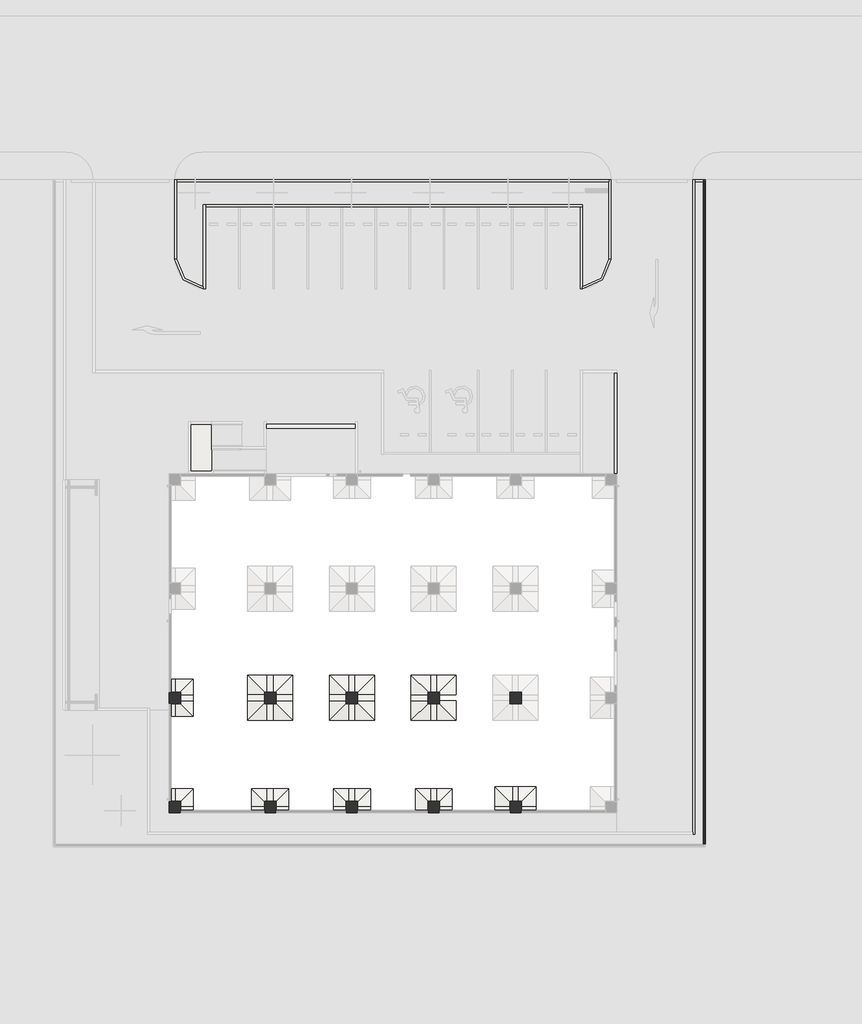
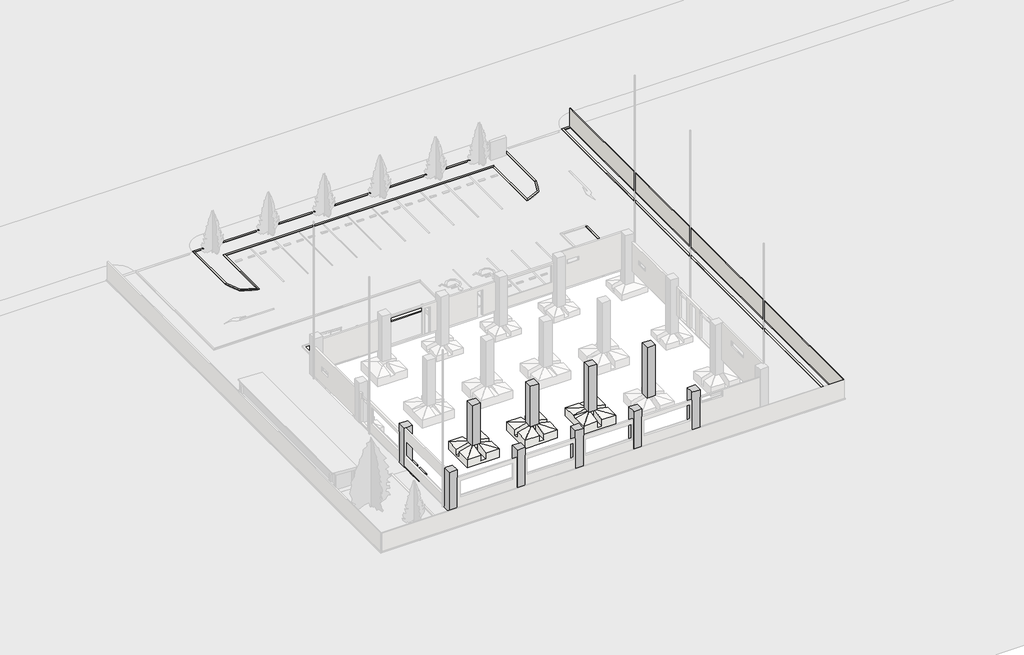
# One storey, part 2 of 4: 13 walls, 11 slabs, 10 columns.
"""IFC4 building model written with IfcOpenShell, lengths in millimetres."""

from ifc_helpers import new_model, si_unit, point, frame, frame_2d, origin, place, context, project, spatial, polyline, circle_curve, trimmed, segment, composite_curve, outline, extrude, faceted_brep, element, save
from ifc_brep_helpers import plane_surface, cylinder_surface, advanced_brep

model = new_model("IFC4")

# Units and contexts
model_context = context("Model", 3, world=origin())
ifc_project = project(units=[si_unit("LENGTHUNIT", "METRE", prefix="MILLI")], contexts=[model_context])

# Site, building, storey
site = spatial("IfcSite", under=ifc_project)
building = spatial("IfcBuilding", under=site)
storey = spatial("IfcBuildingStorey", under=building, Name="設計GL=平均地盤面", Elevation=-300.0)

# Columns
placement = place(None, origin())
element("IfcColumn", 1, ObjectType="営_RC柱_角 : 800*800", at=placement, inside=storey, context=model_context, shape_type="Brep", body=[
    faceted_brep([(7420.0, 420.0, -800.0), (7420.0, -420.0, -800.0), (6580.0, -420.0, -800.0), (6580.0, 420.0, -800.0), (7420.0, 420.0, 4000.0), (7420.0, -325.0, 4000.0), (7420.0, -420.0, 4000.0), (7420.0, -420.0, 3150.0), (7420.0, -420.0, -100.0), (7420.0, 420.0, -250.0), (7420.0, 420.0, -100.0), (7420.0, 420.0, -10.0), (7420.0, 420.0, 0.0), (7420.0, 420.0, 3850.0), (6580.0, -420.0, 4000.0), (6580.0, -420.0, 3150.0), (6580.0, -420.0, -100.0), (6580.0, -325.0, 4000.0), (6580.0, 420.0, 4000.0), (6580.0, 420.0, 3850.0), (6580.0, 420.0, 0.0), (6580.0, 420.0, -10.0), (6580.0, 420.0, -100.0), (6580.0, 420.0, -250.0)], [[[0, 1, 2, 3]], [[4, 5, 6, 7, 8, 1, 0, 9, 10, 11, 12, 13]], [[6, 14, 15, 16, 2, 1, 8, 7]], [[14, 17, 18, 19, 20, 21, 22, 23, 3, 2, 16, 15]], [[18, 4, 13, 12, 11, 10, 9, 0, 3, 23, 22, 21, 20, 19]], [[4, 18, 17, 14, 6, 5]]]),
])
element("IfcColumn", 2, ObjectType="営_RC柱_角 : 800*800", at=placement, inside=storey, context=model_context, shape_type="Brep", body=[
    faceted_brep([(13420.0, 420.0, -800.0), (13420.0, -420.0, -800.0), (12580.0, -420.0, -800.0), (12580.0, 420.0, -800.0), (13420.0, 420.0, 4000.0), (13420.0, -325.0, 4000.0), (13420.0, -420.0, 4000.0), (13420.0, -420.0, 3150.0), (13420.0, -420.0, -100.0), (13420.0, 420.0, -250.0), (13420.0, 420.0, -100.0), (13420.0, 420.0, -10.0), (13420.0, 420.0, 0.0), (13420.0, 420.0, 3850.0), (12580.0, -420.0, 4000.0), (12580.0, -420.0, 3150.0), (12580.0, -420.0, -100.0), (12580.0, -325.0, 4000.0), (12580.0, 420.0, 4000.0), (12580.0, 420.0, 3850.0), (12580.0, 420.0, 0.0), (12580.0, 420.0, -10.0), (12580.0, 420.0, -100.0), (12580.0, 420.0, -250.0)], [[[0, 1, 2, 3]], [[4, 5, 6, 7, 8, 1, 0, 9, 10, 11, 12, 13]], [[6, 14, 15, 16, 2, 1, 8, 7]], [[14, 17, 18, 19, 20, 21, 22, 23, 3, 2, 16, 15]], [[18, 4, 13, 12, 11, 10, 9, 0, 3, 23, 22, 21, 20, 19]], [[4, 18, 17, 14, 6, 5]]]),
])
element("IfcColumn", 3, ObjectType="営_RC柱_角 : 800*800", at=placement, inside=storey, context=model_context, shape_type="Brep", body=[
    faceted_brep([(19420.0, 420.0, -1350.0), (19420.0, -420.0, -1350.0), (18580.0, -420.0, -1350.0), (18580.0, 420.0, -1350.0), (19420.0, 420.0, 4000.0), (19420.0, -325.0, 4000.0), (19420.0, -420.0, 4000.0), (19420.0, -420.0, 3150.0), (19420.0, -420.0, -100.0), (19420.0, 420.0, -250.0), (19420.0, 420.0, -100.0), (19420.0, 420.0, 190.0), (19420.0, 420.0, 200.0), (19420.0, 420.0, 3850.0), (18580.0, -420.0, 4000.0), (18580.0, -420.0, 3150.0), (18580.0, -420.0, -100.0), (18580.0, -325.0, 4000.0), (18580.0, 420.0, 4000.0), (18580.0, 420.0, 3850.0), (18580.0, 420.0, 0.0), (18580.0, 420.0, -10.0), (18580.0, 420.0, -100.0), (18580.0, 420.0, -250.0)], [[[0, 1, 2, 3]], [[4, 5, 6, 7, 8, 1, 0, 9, 10, 11, 12, 13]], [[6, 14, 15, 16, 2, 1, 8, 7]], [[14, 17, 18, 19, 20, 21, 22, 23, 3, 2, 16, 15]], [[18, 4, 13, 12, 11, 10, 9, 0, 3, 23, 22, 21, 20, 19]], [[4, 18, 17, 14, 6, 5]]]),
])
element("IfcColumn", 4, ObjectType="営_RC柱_角 : 800*800", at=placement, inside=storey, context=model_context, shape_type="Brep", body=[
    faceted_brep([(25420.0, 420.0, -1500.0), (25420.0, -420.0, -1500.0), (24580.0, -420.0, -1500.0), (24580.0, 420.0, -1500.0), (25420.0, 420.0, 4000.0), (25420.0, -420.0, 4000.0), (25420.0, -420.0, 3150.0), (25420.0, -420.0, -10.0), (25420.0, 420.0, -160.0), (25420.0, 420.0, -10.0), (25420.0, 420.0, 0.0), (25420.0, 420.0, 3940.0), (24580.0, -420.0, 4000.0), (24580.0, -420.0, 3150.0), (24580.0, -420.0, -100.0), (24580.0, -250.0, 4000.0), (24580.0, 420.0, 4000.0), (24580.0, 420.0, 3940.0), (24580.0, 420.0, 0.0), (24580.0, 420.0, -10.0), (24580.0, 420.0, -160.0)], [[[0, 1, 2, 3]], [[4, 5, 6, 7, 1, 0, 8, 9, 10, 11]], [[5, 12, 13, 14, 2, 1, 7, 6]], [[12, 15, 16, 17, 18, 19, 20, 3, 2, 14, 13]], [[16, 4, 11, 10, 9, 8, 0, 3, 20, 19, 18, 17]], [[4, 16, 15, 12, 5]]]),
])
element("IfcColumn", 5, ObjectType="営_RC柱_角 : 800*800", at=placement, inside=storey, context=model_context, shape_type="Brep", body=[
    faceted_brep([(420.0, 420.0, -800.0), (420.0, -420.0, -800.0), (-420.0, -420.0, -800.0), (-420.0, 420.0, -800.0), (420.0, 420.0, 4000.0), (420.0, -325.0, 4000.0), (420.0, -420.0, 4000.0), (420.0, -420.0, 3150.0), (420.0, -420.0, -100.0), (420.0, 420.0, -250.0), (420.0, 420.0, -100.0), (420.0, 420.0, -10.0), (420.0, 420.0, 0.0), (420.0, 420.0, 3850.0), (-420.0, -420.0, 4000.0), (-420.0, 420.0, 4000.0), (-420.0, 420.0, -100.0), (-250.0, 420.0, 4000.0)], [[[0, 1, 2, 3]], [[4, 5, 6, 7, 8, 1, 0, 9, 10, 11, 12, 13]], [[6, 14, 2, 1, 8, 7]], [[14, 15, 16, 3, 2]], [[15, 17, 4, 13, 12, 11, 10, 9, 0, 3, 16]], [[4, 17, 15, 14, 6, 5]]]),
])
element("IfcColumn", 6, ObjectType="営_RC柱_角 : 800*800", at=placement, inside=storey, context=model_context, shape_type="Brep", body=[
    faceted_brep([(7420.0, 8420.0, -400.0), (7420.0, 7580.0, -400.0), (6580.0, 7580.0, -400.0), (6580.0, 8420.0, -400.0), (7420.0, 8420.0, 4000.0), (7420.0, 7580.0, 4000.0), (7420.0, 7580.0, 3850.0), (7420.0, 7580.0, 0.0), (7420.0, 7580.0, -10.0), (7420.0, 7580.0, -100.0), (7420.0, 7580.0, -250.0), (7420.0, 8420.0, -250.0), (7420.0, 8420.0, -100.0), (7420.0, 8420.0, -10.0), (7420.0, 8420.0, 0.0), (7420.0, 8420.0, 3850.0), (6580.0, 7580.0, 4000.0), (6580.0, 7580.0, 3850.0), (6580.0, 7580.0, 0.0), (6580.0, 7580.0, -10.0), (6580.0, 7580.0, -100.0), (6580.0, 7580.0, -250.0), (6580.0, 8420.0, 4000.0), (6580.0, 8420.0, 3850.0), (6580.0, 8420.0, 0.0), (6580.0, 8420.0, -10.0), (6580.0, 8420.0, -100.0), (6580.0, 8420.0, -250.0)], [[[0, 1, 2, 3]], [[4, 5, 6, 7, 8, 9, 10, 1, 0, 11, 12, 13, 14, 15]], [[5, 16, 17, 18, 19, 20, 21, 2, 1, 10, 9, 8, 7, 6]], [[16, 22, 23, 24, 25, 26, 27, 3, 2, 21, 20, 19, 18, 17]], [[22, 4, 15, 14, 13, 12, 11, 0, 3, 27, 26, 25, 24, 23]], [[4, 22, 16, 5]]]),
])
element("IfcColumn", 7, ObjectType="営_RC柱_角 : 800*800", at=placement, inside=storey, context=model_context, shape_type="Brep", body=[
    faceted_brep([(13420.0, 8420.0, -400.0), (13420.0, 7580.0, -400.0), (12580.0, 7580.0, -400.0), (12580.0, 8420.0, -400.0), (13420.0, 8420.0, 4000.0), (13420.0, 7580.0, 4000.0), (13420.0, 7580.0, 3850.0), (13420.0, 7580.0, 0.0), (13420.0, 7580.0, -10.0), (13420.0, 7580.0, -100.0), (13420.0, 7580.0, -250.0), (13420.0, 8420.0, -250.0), (13420.0, 8420.0, -100.0), (13420.0, 8420.0, -10.0), (13420.0, 8420.0, 0.0), (13420.0, 8420.0, 3850.0), (12580.0, 7580.0, 4000.0), (12580.0, 7580.0, 3850.0), (12580.0, 7580.0, 0.0), (12580.0, 7580.0, -10.0), (12580.0, 7580.0, -100.0), (12580.0, 7580.0, -250.0), (12580.0, 8420.0, 4000.0), (12580.0, 8420.0, 3850.0), (12580.0, 8420.0, 0.0), (12580.0, 8420.0, -10.0), (12580.0, 8420.0, -100.0), (12580.0, 8420.0, -250.0)], [[[0, 1, 2, 3]], [[4, 5, 6, 7, 8, 9, 10, 1, 0, 11, 12, 13, 14, 15]], [[5, 16, 17, 18, 19, 20, 21, 2, 1, 10, 9, 8, 7, 6]], [[16, 22, 23, 24, 25, 26, 27, 3, 2, 21, 20, 19, 18, 17]], [[22, 4, 15, 14, 13, 12, 11, 0, 3, 27, 26, 25, 24, 23]], [[4, 22, 16, 5]]]),
])
element("IfcColumn", 8, ObjectType="営_RC柱_角 : 800*800", at=placement, inside=storey, context=model_context, shape_type="Brep", body=[
    faceted_brep([(19420.0, 8420.0, -950.0), (19420.0, 7580.0, -950.0), (18580.0, 7580.0, -950.0), (18580.0, 8420.0, -950.0), (19420.0, 8420.0, 4000.0), (19420.0, 7580.0, 4000.0), (19420.0, 7580.0, 3850.0), (19420.0, 7580.0, 200.0), (19420.0, 7580.0, 190.0), (19420.0, 7580.0, -100.0), (19420.0, 7580.0, -250.0), (19420.0, 8420.0, -250.0), (19420.0, 8420.0, -100.0), (19420.0, 8420.0, 190.0), (19420.0, 8420.0, 200.0), (19420.0, 8420.0, 3850.0), (18580.0, 7580.0, 4000.0), (18580.0, 7580.0, 3850.0), (18580.0, 7580.0, 0.0), (18580.0, 7580.0, -10.0), (18580.0, 7580.0, -100.0), (18580.0, 7580.0, -250.0), (18580.0, 8420.0, 4000.0), (18580.0, 8420.0, 3850.0), (18580.0, 8420.0, 0.0), (18580.0, 8420.0, -10.0), (18580.0, 8420.0, -100.0), (18580.0, 8420.0, -250.0)], [[[0, 1, 2, 3]], [[4, 5, 6, 7, 8, 9, 10, 1, 0, 11, 12, 13, 14, 15]], [[5, 16, 17, 18, 19, 20, 21, 2, 1, 10, 9, 8, 7, 6]], [[16, 22, 23, 24, 25, 26, 27, 3, 2, 21, 20, 19, 18, 17]], [[22, 4, 15, 14, 13, 12, 11, 0, 3, 27, 26, 25, 24, 23]], [[4, 22, 16, 5]]]),
])
element("IfcColumn", 9, ObjectType="営_RC柱_角 : 800*800", at=placement, inside=storey, context=model_context, shape_type="Brep", body=[
    faceted_brep([(25420.0, 8420.0, -1500.0), (25420.0, 7580.0, -1500.0), (24580.0, 7580.0, -1500.0), (24580.0, 8420.0, -1500.0), (25420.0, 8420.0, 4000.0), (25420.0, 7580.0, 4000.0), (25420.0, 7580.0, 3940.0), (25420.0, 7580.0, 0.0), (25420.0, 7580.0, -10.0), (25420.0, 7580.0, -160.0), (25420.0, 8420.0, -160.0), (25420.0, 8420.0, -10.0), (25420.0, 8420.0, 0.0), (25420.0, 8420.0, 3940.0), (24580.0, 7580.0, 4000.0), (24580.0, 7580.0, 3940.0), (24580.0, 7580.0, 0.0), (24580.0, 7580.0, -10.0), (24580.0, 7580.0, -160.0), (24580.0, 8420.0, 4000.0), (24580.0, 8420.0, 3940.0), (24580.0, 8420.0, 0.0), (24580.0, 8420.0, -10.0), (24580.0, 8420.0, -100.0), (24580.0, 8420.0, -250.0)], [[[0, 1, 2, 3]], [[4, 5, 6, 7, 8, 9, 1, 0, 10, 11, 12, 13]], [[5, 14, 15, 16, 17, 18, 2, 1, 9, 8, 7, 6]], [[14, 19, 20, 21, 22, 23, 24, 3, 2, 18, 17, 16, 15]], [[19, 4, 13, 12, 11, 10, 0, 3, 24, 23, 22, 21, 20]], [[4, 19, 14, 5]]]),
])
element("IfcColumn", 10, ObjectType="営_RC柱_角 : 800*800", at=placement, inside=storey, context=model_context, shape_type="Brep", body=[
    faceted_brep([(420.0, 8420.0, -800.0), (420.0, 7580.0, -800.0), (-420.0, 7580.0, -800.0), (-420.0, 8420.0, -800.0), (420.0, 8420.0, 4000.0), (420.0, 7580.0, 4000.0), (420.0, 7580.0, 3850.0), (420.0, 7580.0, 0.0), (420.0, 7580.0, -10.0), (420.0, 7580.0, -100.0), (420.0, 7580.0, -250.0), (420.0, 8420.0, -250.0), (420.0, 8420.0, -100.0), (420.0, 8420.0, -10.0), (420.0, 8420.0, 0.0), (420.0, 8420.0, 3850.0), (-250.0, 7580.0, 4000.0), (-420.0, 7580.0, 4000.0), (-420.0, 7580.0, -100.0), (-420.0, 8420.0, 4000.0), (-420.0, 8420.0, 3100.0), (-420.0, 8420.0, -100.0), (-335.0, 8420.0, 4000.0), (-250.0, 8420.0, 4000.0)], [[[0, 1, 2, 3]], [[4, 5, 6, 7, 8, 9, 10, 1, 0, 11, 12, 13, 14, 15]], [[5, 16, 17, 18, 2, 1, 10, 9, 8, 7, 6]], [[17, 19, 20, 21, 3, 2, 18]], [[19, 22, 23, 4, 15, 14, 13, 12, 11, 0, 3, 21, 20]], [[4, 23, 22, 19, 17, 16, 5]]]),
])

# Slabs
element("IfcSlab", 11, ObjectType="独立基礎 - 四角形 - ハンチ : F3 2700*2700", at=placement, inside=storey, context=model_context, shape_type="Brep", body=[
    faceted_brep([(1350.0, 6650.0, -1600.0), (-1350.0, 6650.0, -1600.0), (-1350.0, 9350.0, -1600.0), (1350.0, 9350.0, -1600.0), (1350.0, 9350.0, -1000.0), (1350.0, 8245.0, -1000.0), (1350.0, 8245.0, -1300.0), (1350.0, 7755.0, -1300.0), (1350.0, 7755.0, -1000.0), (1350.0, 6650.0, -1000.0), (-1350.0, 9350.0, -1000.0), (-420.0, 9350.0, -1000.0), (-420.0, 9350.0, -1300.0), (70.0, 9350.0, -1300.0), (70.0, 9350.0, -1000.0), (-1350.0, 6650.0, -1000.0), (70.0, 6650.0, -1000.0), (70.0, 6650.0, -1300.0), (-420.0, 6650.0, -1300.0), (-420.0, 6650.0, -1000.0), (400.0, 8400.0, -800.0), (70.0, 8400.0, -800.0), (70.0, 8245.0, -800.0), (400.0, 8245.0, -800.0), (-420.0, 7580.0, -804.2105263), (-420.0, 7755.0, -804.2105263), (-420.0, 8245.0, -804.2105263), (-420.0, 8420.0, -804.2105263), (400.0, 7600.0, -800.0), (400.0, 7755.0, -800.0), (70.0, 8245.0, -1300.0), (70.0, 7755.0, -1300.0), (-420.0, 8245.0, -1300.0), (70.0, 7600.0, -800.0), (70.0, 7755.0, -800.0)], [[[0, 1, 2, 3]], [[0, 3, 4, 5, 6, 7, 8, 9]], [[3, 2, 10, 11, 12, 13, 14, 4]], [[2, 1, 15, 10]], [[1, 0, 9, 16, 17, 18, 19, 15]], [[20, 21, 22, 23]], [[20, 4, 14, 21]], [[10, 15, 24, 25, 26, 27]], [[15, 19, 24]], [[28, 9, 8, 29]], [[14, 13, 30, 22, 21]], [[18, 17, 31, 7, 6, 30, 13, 12, 32]], [[19, 18, 32, 12, 11, 27, 26, 25, 24]], [[9, 28, 33, 16]], [[11, 10, 27]], [[7, 31, 34, 29, 8]], [[30, 6, 5, 23, 22]], [[33, 28, 29, 34]], [[4, 20, 23, 5]], [[17, 16, 33, 34, 31]]]),
])
element("IfcSlab", 12, ObjectType="独立基礎 - 四角形 - ハンチ : F1 3300*3300", at=placement, inside=storey, context=model_context, shape_type="Brep", body=[
    faceted_brep([(8650.0, 6350.0, -1600.0), (5350.0, 6350.0, -1600.0), (5350.0, 9650.0, -1600.0), (8650.0, 9650.0, -1600.0), (8650.0, 9650.0, -700.0), (8650.0, 8245.0, -700.0), (8650.0, 8245.0, -1300.0), (8650.0, 7755.0, -1300.0), (8650.0, 7755.0, -700.0), (8650.0, 6350.0, -700.0), (5350.0, 9650.0, -700.0), (6755.0, 9650.0, -700.0), (6755.0, 9650.0, -1300.0), (7245.0, 9650.0, -1300.0), (7245.0, 9650.0, -700.0), (5350.0, 6350.0, -700.0), (5350.0, 7755.0, -700.0), (5350.0, 7755.0, -1300.0), (5350.0, 8245.0, -1300.0), (5350.0, 8245.0, -700.0), (7245.0, 6350.0, -700.0), (7245.0, 6350.0, -1300.0), (6755.0, 6350.0, -1300.0), (6755.0, 6350.0, -700.0), (7400.0, 8245.0, -400.0), (7400.0, 8400.0, -400.0), (7245.0, 8400.0, -400.0), (7245.0, 8245.0, -400.0), (6600.0, 8400.0, -400.0), (6600.0, 8245.0, -400.0), (6600.0, 7600.0, -400.0), (6755.0, 7600.0, -400.0), (7400.0, 7600.0, -400.0), (7400.0, 7755.0, -400.0), (7245.0, 7755.0, -1300.0), (7245.0, 7755.0, -400.0), (6755.0, 7755.0, -1300.0), (7245.0, 8245.0, -1300.0), (6755.0, 8245.0, -1300.0), (6600.0, 7755.0, -400.0), (7245.0, 7600.0, -400.0), (6755.0, 7755.0, -400.0), (6755.0, 8400.0, -400.0), (6755.0, 8245.0, -400.0)], [[[0, 1, 2, 3]], [[0, 3, 4, 5, 6, 7, 8, 9]], [[3, 2, 10, 11, 12, 13, 14, 4]], [[2, 1, 15, 16, 17, 18, 19, 10]], [[1, 0, 9, 20, 21, 22, 23, 15]], [[24, 25, 26, 27]], [[25, 4, 14, 26]], [[28, 10, 19, 29]], [[30, 15, 23, 31]], [[32, 9, 8, 33]], [[8, 7, 34, 35, 33]], [[18, 17, 36, 22, 21, 34, 7, 6, 37, 13, 12, 38]], [[6, 5, 24, 27, 37]], [[15, 30, 39, 16]], [[32, 33, 35, 40]], [[4, 25, 24, 5]], [[34, 21, 20, 40, 35]], [[22, 36, 41, 31, 23]], [[9, 32, 40, 20]], [[17, 16, 39, 41, 36]], [[39, 30, 31, 41]], [[13, 37, 27, 26, 14]], [[38, 12, 11, 42, 43]], [[28, 29, 43, 42]], [[10, 28, 42, 11]], [[19, 18, 38, 43, 29]]]),
])
element("IfcSlab", 13, ObjectType="独立基礎 - 四角形 - ハンチ : F1 3300*3300", at=placement, inside=storey, context=model_context, shape_type="Brep", body=[
    faceted_brep([(14650.0, 6350.0, -1600.0), (11350.0, 6350.0, -1600.0), (11350.0, 9650.0, -1600.0), (14650.0, 9650.0, -1600.0), (14650.0, 9650.0, -700.0), (14650.0, 8245.0, -700.0), (14650.0, 8245.0, -1300.0), (14650.0, 7755.0, -1300.0), (14650.0, 7755.0, -700.0), (14650.0, 6350.0, -700.0), (11350.0, 9650.0, -700.0), (12755.0, 9650.0, -700.0), (12755.0, 9650.0, -1300.0), (13245.0, 9650.0, -1300.0), (13245.0, 9650.0, -700.0), (11350.0, 6350.0, -700.0), (11350.0, 7755.0, -700.0), (11350.0, 7755.0, -1300.0), (11350.0, 8245.0, -1300.0), (11350.0, 8245.0, -700.0), (13245.0, 6350.0, -700.0), (13245.0, 6350.0, -1300.0), (12755.0, 6350.0, -1300.0), (12755.0, 6350.0, -700.0), (13400.0, 8245.0, -400.0), (13400.0, 8400.0, -400.0), (13245.0, 8400.0, -400.0), (13245.0, 8245.0, -400.0), (12600.0, 8400.0, -400.0), (12600.0, 8245.0, -400.0), (12600.0, 7600.0, -400.0), (12755.0, 7600.0, -400.0), (13400.0, 7600.0, -400.0), (13400.0, 7755.0, -400.0), (13245.0, 7755.0, -1300.0), (13245.0, 7755.0, -400.0), (12755.0, 7755.0, -1300.0), (13245.0, 8245.0, -1300.0), (12755.0, 8245.0, -1300.0), (12600.0, 7755.0, -400.0), (13245.0, 7600.0, -400.0), (12755.0, 7755.0, -400.0), (12755.0, 8400.0, -400.0), (12755.0, 8245.0, -400.0)], [[[0, 1, 2, 3]], [[0, 3, 4, 5, 6, 7, 8, 9]], [[3, 2, 10, 11, 12, 13, 14, 4]], [[2, 1, 15, 16, 17, 18, 19, 10]], [[1, 0, 9, 20, 21, 22, 23, 15]], [[24, 25, 26, 27]], [[25, 4, 14, 26]], [[28, 10, 19, 29]], [[30, 15, 23, 31]], [[32, 9, 8, 33]], [[8, 7, 34, 35, 33]], [[18, 17, 36, 22, 21, 34, 7, 6, 37, 13, 12, 38]], [[6, 5, 24, 27, 37]], [[15, 30, 39, 16]], [[32, 33, 35, 40]], [[4, 25, 24, 5]], [[34, 21, 20, 40, 35]], [[22, 36, 41, 31, 23]], [[9, 32, 40, 20]], [[17, 16, 39, 41, 36]], [[39, 30, 31, 41]], [[13, 37, 27, 26, 14]], [[38, 12, 11, 42, 43]], [[28, 29, 43, 42]], [[10, 28, 42, 11]], [[19, 18, 38, 43, 29]]]),
])
element("IfcSlab", 14, ObjectType="独立基礎 - 四角形 - ハンチ : F1 3300*3300", at=placement, inside=storey, context=model_context, shape_type="Brep", body=[
    faceted_brep([(20650.0, 6350.0, -2150.0), (17350.0, 6350.0, -2150.0), (17350.0, 9650.0, -2150.0), (20650.0, 9650.0, -2150.0), (20650.0, 8245.0, -2150.0), (18755.0, 8245.0, -2150.0), (18755.0, 7775.0, -2150.0), (20650.0, 7775.0, -2150.0), (20650.0, 6350.0, -1250.0), (20650.0, 7775.0, -1250.0), (17350.0, 9650.0, -1250.0), (18755.0, 9650.0, -1250.0), (18755.0, 9650.0, -1300.0), (19245.0, 9650.0, -1300.0), (19245.0, 9650.0, -1250.0), (20650.0, 9650.0, -1250.0), (17350.0, 6350.0, -1250.0), (17350.0, 7755.0, -1250.0), (17350.0, 7755.0, -1300.0), (17350.0, 8245.0, -1300.0), (17350.0, 8245.0, -1250.0), (19225.0, 6350.0, -1250.0), (19225.0, 6350.0, -1950.0), (18755.0, 6350.0, -1950.0), (18755.0, 6350.0, -1250.0), (19400.0, 8245.0, -950.0), (19400.0, 8400.0, -950.0), (19245.0, 8400.0, -950.0), (19245.0, 8245.0, -950.0), (18600.0, 8400.0, -950.0), (18600.0, 8245.0, -950.0), (18600.0, 7600.0, -950.0), (18755.0, 7600.0, -950.0), (19400.0, 7600.0, -950.0), (19400.0, 7775.0, -950.0), (18600.0, 7755.0, -950.0), (18755.0, 7755.0, -950.0), (18755.0, 7755.0, -1300.0), (18755.0, 7772.6070916, -1300.0), (18755.0, 8245.0, -1300.0), (20650.0, 8245.0, -1250.0), (19245.0, 8245.0, -1300.0), (19227.3929084, 8245.0, -1300.0), (18755.0, 8245.0, -1950.0), (19225.0, 7775.0, -1950.0), (19225.0, 7600.0, -950.0), (19225.0, 7755.0, -950.0), (19225.0, 7775.0, -950.0), (19225.0, 7775.0, -1300.0), (18755.0, 7775.0, -1950.0), (19245.0, 7775.0, -950.0), (18755.0, 8400.0, -950.0), (18755.0, 8245.0, -950.0)], [[[0, 1, 2, 3, 4, 5, 6, 7]], [[8, 0, 7, 9]], [[3, 2, 10, 11, 12, 13, 14, 15]], [[2, 1, 16, 17, 18, 19, 20, 10]], [[1, 0, 8, 21, 22, 23, 24, 16]], [[25, 26, 27, 28]], [[26, 15, 14, 27]], [[29, 10, 20, 30]], [[31, 16, 24, 32]], [[33, 8, 9, 34]], [[18, 17, 35, 36, 37]], [[19, 18, 37, 38, 39]], [[5, 4, 40, 25, 28, 41, 42, 39, 43]], [[44, 22, 21, 45, 46, 47, 48]], [[16, 31, 35, 17]], [[7, 6, 49, 44, 48, 47, 50, 34, 9]], [[6, 5, 43, 39, 38, 37, 36, 32, 24, 23, 49]], [[3, 15, 40, 4]], [[33, 34, 50, 47, 46, 45]], [[15, 26, 25, 40]], [[22, 44, 49, 23]], [[8, 33, 45, 21]], [[35, 31, 32, 36]], [[13, 41, 28, 27, 14]], [[41, 13, 12, 39, 42]], [[39, 12, 11, 51, 52]], [[29, 30, 52, 51]], [[10, 29, 51, 11]], [[20, 19, 39, 52, 30]]]),
])
element("IfcSlab", 15, ObjectType="独立基礎 - 四角形 - ハンチ : F3 2700*2700", at=placement, inside=storey, context=model_context, shape_type="Brep", body=[
    faceted_brep([(1350.0, -1350.0, -1600.0), (-1350.0, -1350.0, -1600.0), (-1350.0, 1350.0, -1600.0), (1350.0, 1350.0, -1600.0), (1350.0, 1350.0, -1000.0), (1350.0, 70.0, -1000.0), (1350.0, 70.0, -1300.0), (1350.0, -420.0, -1300.0), (1350.0, -420.0, -1000.0), (1350.0, -1350.0, -1000.0), (-1350.0, 1350.0, -1000.0), (-420.0, 1350.0, -1000.0), (-420.0, 1350.0, -1300.0), (70.0, 1350.0, -1300.0), (70.0, 1350.0, -1000.0), (-1350.0, -1350.0, -1000.0), (400.0, 400.0, -800.0), (70.0, 400.0, -800.0), (70.0, 70.0, -800.0), (400.0, 70.0, -800.0), (-420.0, -420.0, -804.2105263), (-420.0, 70.0, -804.2105263), (-420.0, 420.0, -804.2105263), (420.0, -420.0, -804.2105263), (70.0, 70.0, -1300.0), (-420.0, -420.0, -1300.0), (70.0, -420.0, -1300.0)], [[[0, 1, 2, 3]], [[0, 3, 4, 5, 6, 7, 8, 9]], [[3, 2, 10, 11, 12, 13, 14, 4]], [[2, 1, 15, 10]], [[1, 0, 9, 15]], [[16, 17, 18, 19]], [[16, 4, 14, 17]], [[10, 15, 20, 21, 22]], [[15, 9, 23, 20]], [[9, 8, 23]], [[14, 13, 24, 18, 17]], [[7, 6, 24, 13, 12, 25, 26]], [[20, 25, 12, 11, 22, 21]], [[7, 26, 25, 20, 23, 8]], [[11, 10, 22]], [[24, 6, 5, 19, 18]], [[4, 16, 19, 5]]]),
])
element("IfcSlab", 16, ObjectType="独立基礎 - 四角形 - ハンチ : F3 2700*2700", at=placement, inside=storey, context=model_context, shape_type="Brep", body=[
    faceted_brep([(8350.0, -1350.0, -1600.0), (5650.0, -1350.0, -1600.0), (5650.0, 1350.0, -1600.0), (8350.0, 1350.0, -1600.0), (8350.0, 1350.0, -1000.0), (8350.0, 70.0, -1000.0), (8350.0, 70.0, -1300.0), (8350.0, -420.0, -1300.0), (8350.0, -420.0, -1000.0), (8350.0, -1350.0, -1000.0), (5650.0, 1350.0, -1000.0), (6755.0, 1350.0, -1000.0), (6755.0, 1350.0, -1300.0), (7245.0, 1350.0, -1300.0), (7245.0, 1350.0, -1000.0), (5650.0, -1350.0, -1000.0), (5650.0, -420.0, -1000.0), (5650.0, -420.0, -1300.0), (5650.0, 70.0, -1300.0), (5650.0, 70.0, -1000.0), (7400.0, 70.0, -800.0), (7400.0, 400.0, -800.0), (7245.0, 400.0, -800.0), (7245.0, 70.0, -800.0), (6600.0, 400.0, -800.0), (6600.0, 70.0, -800.0), (7420.0, -420.0, -804.2105263), (7245.0, -420.0, -804.2105263), (6755.0, -420.0, -804.2105263), (6580.0, -420.0, -804.2105263), (7245.0, -420.0, -1300.0), (7245.0, 70.0, -1300.0), (6755.0, 70.0, -1300.0), (6755.0, 400.0, -800.0), (6755.0, 70.0, -800.0)], [[[0, 1, 2, 3]], [[0, 3, 4, 5, 6, 7, 8, 9]], [[3, 2, 10, 11, 12, 13, 14, 4]], [[2, 1, 15, 16, 17, 18, 19, 10]], [[1, 0, 9, 15]], [[20, 21, 22, 23]], [[21, 4, 14, 22]], [[24, 10, 19, 25]], [[15, 9, 26, 27, 28, 29]], [[9, 8, 26]], [[7, 30, 17, 16, 29, 28, 27, 26, 8]], [[18, 17, 30, 7, 6, 31, 13, 12, 32]], [[6, 5, 20, 23, 31]], [[16, 15, 29]], [[4, 21, 20, 5]], [[13, 31, 23, 22, 14]], [[32, 12, 11, 33, 34]], [[24, 25, 34, 33]], [[10, 24, 33, 11]], [[19, 18, 32, 34, 25]]]),
])
element("IfcSlab", 17, ObjectType="独立基礎 - 四角形 - ハンチ : F3 2700*2700", at=placement, inside=storey, context=model_context, shape_type="Brep", body=[
    faceted_brep([(14350.0, -1350.0, -1600.0), (11650.0, -1350.0, -1600.0), (11650.0, 1350.0, -1600.0), (14350.0, 1350.0, -1600.0), (14350.0, 1350.0, -1000.0), (14350.0, 70.0, -1000.0), (14350.0, 70.0, -1300.0), (14350.0, -420.0, -1300.0), (14350.0, -420.0, -1000.0), (14350.0, -1350.0, -1000.0), (11650.0, 1350.0, -1000.0), (12755.0, 1350.0, -1000.0), (12755.0, 1350.0, -1300.0), (13245.0, 1350.0, -1300.0), (13245.0, 1350.0, -1000.0), (11650.0, -1350.0, -1000.0), (11650.0, -420.0, -1000.0), (11650.0, -420.0, -1300.0), (11650.0, 70.0, -1300.0), (11650.0, 70.0, -1000.0), (13400.0, 70.0, -800.0), (13400.0, 400.0, -800.0), (13245.0, 400.0, -800.0), (13245.0, 70.0, -800.0), (12600.0, 400.0, -800.0), (12600.0, 70.0, -800.0), (13420.0, -420.0, -804.2105263), (13245.0, -420.0, -804.2105263), (12755.0, -420.0, -804.2105263), (12580.0, -420.0, -804.2105263), (13245.0, -420.0, -1300.0), (13245.0, 70.0, -1300.0), (12755.0, 70.0, -1300.0), (12755.0, 400.0, -800.0), (12755.0, 70.0, -800.0)], [[[0, 1, 2, 3]], [[0, 3, 4, 5, 6, 7, 8, 9]], [[3, 2, 10, 11, 12, 13, 14, 4]], [[2, 1, 15, 16, 17, 18, 19, 10]], [[1, 0, 9, 15]], [[20, 21, 22, 23]], [[21, 4, 14, 22]], [[24, 10, 19, 25]], [[15, 9, 26, 27, 28, 29]], [[9, 8, 26]], [[7, 30, 17, 16, 29, 28, 27, 26, 8]], [[18, 17, 30, 7, 6, 31, 13, 12, 32]], [[6, 5, 20, 23, 31]], [[16, 15, 29]], [[4, 21, 20, 5]], [[13, 31, 23, 22, 14]], [[32, 12, 11, 33, 34]], [[24, 25, 34, 33]], [[10, 24, 33, 11]], [[19, 18, 32, 34, 25]]]),
])
element("IfcSlab", 18, ObjectType="独立基礎 - 四角形 - ハンチ : F3 2700*2700", at=placement, inside=storey, context=model_context, shape_type="Brep", body=[
    faceted_brep([(20350.0, -1350.0, -2150.0), (17650.0, -1350.0, -2150.0), (17650.0, 1350.0, -2150.0), (20350.0, 1350.0, -2150.0), (20350.0, 1350.0, -1550.0), (20350.0, 50.0, -1550.0), (20350.0, 50.0, -1950.0), (20350.0, -420.0, -1950.0), (20350.0, -420.0, -1550.0), (20350.0, -1350.0, -1550.0), (17650.0, 1350.0, -1550.0), (18755.0, 1350.0, -1550.0), (18755.0, 1350.0, -1950.0), (19225.0, 1350.0, -1950.0), (19225.0, 1350.0, -1550.0), (17650.0, -1350.0, -1550.0), (19400.0, 50.0, -1350.0), (19400.0, 400.0, -1350.0), (19225.0, 400.0, -1350.0), (19225.0, 50.0, -1350.0), (18600.0, -400.0, -1350.0), (18600.0, 400.0, -1350.0), (19420.0, -420.0, -1354.2105263), (19225.0, -420.0, -1354.2105263), (18755.0, -420.0, -1354.2105263), (18755.0, -400.0, -1350.0), (18755.0, -420.0, -1950.0), (19225.0, 50.0, -1950.0), (18755.0, 50.0, -1950.0), (18755.0, 400.0, -1350.0), (18755.0, 50.0, -1350.0)], [[[0, 1, 2, 3]], [[0, 3, 4, 5, 6, 7, 8, 9]], [[3, 2, 10, 11, 12, 13, 14, 4]], [[2, 1, 15, 10]], [[1, 0, 9, 15]], [[16, 17, 18, 19]], [[17, 4, 14, 18]], [[10, 15, 20, 21]], [[15, 9, 22, 23, 24, 25, 20]], [[9, 8, 22]], [[7, 26, 24, 23, 22, 8]], [[7, 6, 27, 13, 12, 28, 26]], [[6, 5, 16, 19, 27]], [[26, 28, 12, 11, 29, 30, 25, 24]], [[4, 17, 16, 5]], [[13, 27, 19, 18, 14]], [[21, 20, 25, 30, 29]], [[10, 21, 29, 11]]]),
])
element("IfcSlab", 19, ObjectType="独立基礎 - 四角形 - ハンチ : F2 3000*3000", at=placement, inside=storey, context=model_context, shape_type="Brep", body=[
    faceted_brep([(26500.0, -1500.0, -2700.0), (23500.0, -1500.0, -2700.0), (23500.0, 1500.0, -2700.0), (26500.0, 1500.0, -2700.0), (26500.0, 1500.0, -1800.0), (26500.0, 50.0, -1800.0), (26500.0, 50.0, -2500.0), (26500.0, -420.0, -2500.0), (26500.0, -420.0, -1800.0), (26500.0, -1500.0, -1800.0), (23500.0, 1500.0, -1800.0), (24775.0, 1500.0, -1800.0), (24775.0, 1500.0, -2500.0), (25225.0, 1500.0, -2500.0), (25225.0, 1500.0, -1800.0), (23500.0, -1500.0, -1800.0), (23500.0, -420.0, -1800.0), (23500.0, -420.0, -1950.0), (23500.0, 50.0, -1950.0), (23500.0, 50.0, -1800.0), (25400.0, 50.0, -1500.0), (25400.0, 400.0, -1500.0), (25225.0, 400.0, -1500.0), (25225.0, 50.0, -1500.0), (24600.0, 400.0, -1500.0), (24600.0, 50.0, -1500.0), (25420.0, -420.0, -1505.4545455), (25225.0, -420.0, -1505.4545455), (24775.0, -420.0, -1505.4545455), (24580.0, -420.0, -1505.4545455), (24775.0, -420.0, -2500.0), (24775.0, -420.0, -1950.0), (24775.0, 50.0, -1950.0), (25225.0, 50.0, -2500.0), (24775.0, 50.0, -2500.0), (24775.0, 400.0, -1500.0), (24775.0, 50.0, -1500.0)], [[[0, 1, 2, 3]], [[0, 3, 4, 5, 6, 7, 8, 9]], [[3, 2, 10, 11, 12, 13, 14, 4]], [[2, 1, 15, 16, 17, 18, 19, 10]], [[1, 0, 9, 15]], [[20, 21, 22, 23]], [[21, 4, 14, 22]], [[24, 10, 19, 25]], [[15, 9, 26, 27, 28, 29]], [[9, 8, 26]], [[17, 16, 29, 28, 27, 26, 8, 7, 30, 31]], [[18, 17, 31, 32]], [[6, 5, 20, 23, 33]], [[16, 15, 29]], [[7, 6, 33, 13, 12, 34, 30]], [[30, 34, 12, 11, 35, 36, 32, 31]], [[4, 21, 20, 5]], [[13, 33, 23, 22, 14]], [[24, 25, 36, 35]], [[10, 24, 35, 11]], [[19, 18, 32, 36, 25]]]),
])
element("IfcSlab", 20, ObjectType="(外床)エントランス 150", at=placement, inside=storey, context=model_context, shape_type="SweptSolid", body=[
    extrude(outline(polyline([(13270.0, 27775.0), (6715.3987464, 27775.0), (6715.3987464, 28075.0), (13270.0, 28075.0), (13270.0, 27775.0)])), frame((0.0, 0.0, -300.0), z_axis=(0.0, 0.0, 1.0), x_axis=(1.0, 0.0, 0.0)), (0.0, 0.0, 1.0), 150.0),
])
element("IfcSlab", 21, ObjectType="(外床)エントランス 105", at=placement, inside=storey, context=model_context, shape_type="SweptSolid", body=[
    extrude(outline(polyline([(2715.0, 28075.0), (2715.0, 24625.0), (1180.0, 24625.0), (1180.0, 28075.0), (2715.0, 28075.0)])), frame((0.0, 0.0, -295.0), z_axis=(0.0, 0.0, 1.0), x_axis=(1.0, 0.0, 0.0)), (0.0, 0.0, 1.0), 105.0),
])

# Walls
element("IfcWall", 22, ObjectType="(外構)縁石", at=placement, inside=storey, context=model_context, shape_type="Brep", body=[
    faceted_brep([(0.0, 46000.0, -300.0), (0.0, 40173.7065119, -300.0), (0.0, 40173.7065119, -200.0), (0.0, 46000.0, -200.0), (150.0, 46000.0, -300.0), (150.0, 46000.0, -200.0), (150.0, 45850.0, -200.0), (150.0, 40173.7065119, -200.0), (150.0, 40173.7065119, -300.0), (150.0, 45850.0, -300.0)], [[[0, 1, 2, 3]], [[4, 5, 6, 7, 8, 9]], [[1, 0, 4, 9, 8]], [[2, 1, 8, 7]], [[3, 2, 7, 6, 5]], [[0, 3, 5, 4]]]),
])
element("IfcWall", 23, ObjectType="(外構)縁石", at=placement, inside=storey, context=model_context, shape_type="AdvancedBrep", body=[
    advanced_brep(
    [(2250.0, 38000.0, -300.0), (2250.0, 44000.0, -300.0), (2250.0, 44150.0, -300.0), (2250.0, 44150.0, -200.0), (2250.0, 44000.0, -200.0), (2250.0, 38000.0, -200.0), (2100.0, 38000.0, -300.0), (2100.0, 38000.0, -200.0), (2100.0, 38150.0958774, -200.0), (2100.0, 44150.0, -200.0), (2100.0, 44150.0, -300.0), (2100.0, 38150.0958774, -300.0)],
    [
        (0, 1),
        (1, 2),
        (2, 3),
        (3, 4),
        (4, 5),
        (5, 0),
        (6, 7),
        (7, 8),
        (8, 9),
        (9, 10),
        (10, 11),
        (11, 6),
        (0, 6, circle_curve(frame((2175.0, 40173.7065119, -300.0), z_axis=(0.0, 0.0, -1.0), x_axis=(-1.0, 0.0, 0.0)), 2175.0)),
        (10, 2),
        (3, 9),
        (7, 5, circle_curve(frame((2175.0, 40173.7065119, -200.0), z_axis=(0.0, 0.0, 1.0), x_axis=(-1.0, 0.0, 0.0)), 2175.0)),
    ],
    [
        plane_surface(frame((2250.0, 38000.0, -300.0), z_axis=(1.0, 0.0, 0.0), x_axis=(0.0, 1.0, 0.0))),
        plane_surface(frame((2100.0, 38000.0, -300.0), z_axis=(-1.0, 0.0, 0.0), x_axis=(0.0, -1.0, 0.0))),
        plane_surface(frame((2250.0, 38073.7065119, -300.0), z_axis=(0.0, 0.0, -1.0), x_axis=(-1.0, 0.0, 0.0))),
        plane_surface(frame((2250.0, 44075.0, -200.0), z_axis=(0.0, 0.0, 1.0), x_axis=(-1.0, 0.0, 0.0))),
        plane_surface(frame((2250.0, 44150.0, -300.0), z_axis=(0.0, 1.0, 0.0), x_axis=(-1.0, 0.0, 0.0))),
        cylinder_surface(frame((2175.0, 40173.7065119, -300.0), z_axis=(0.0, 0.0, 1.0), x_axis=(-1.0, 0.0, 0.0)), 2175.0),
    ],
    [
        (0, [[1, 2, 3, 4, 5, 6]]),
        (1, [[7, 8, 9, 10, 11, 12]]),
        (2, [[-2, -1, 13, -12, -11, 14]]),
        (3, [[-5, -4, 15, -9, -8, 16]]),
        (4, [[-3, -14, -10, -15]]),
        (5, [[-6, -16, -7, -13]]),
    ],
),
])
element("IfcWall", 24, ObjectType="(外構)縁石", at=placement, inside=storey, context=model_context, shape_type="Brep", body=[
    faceted_brep([(2250.0, 44000.0, -300.0), (29750.0, 44000.0, -300.0), (29900.0, 44000.0, -300.0), (29900.0, 44000.0, -200.0), (29750.0, 44000.0, -200.0), (2250.0, 44000.0, -200.0), (2250.0, 44150.0, -300.0), (2250.0, 44150.0, -200.0), (29900.0, 44150.0, -200.0), (29900.0, 44150.0, -300.0)], [[[0, 1, 2, 3, 4, 5]], [[6, 7, 8, 9]], [[2, 1, 0, 6, 9]], [[5, 4, 3, 8, 7]], [[0, 5, 7, 6]], [[3, 2, 9, 8]]]),
])
element("IfcWall", 25, ObjectType="(外構)縁石", at=placement, inside=storey, context=model_context, shape_type="AdvancedBrep", body=[
    advanced_brep(
    [(29750.0, 44000.0, -300.0), (29750.0, 38000.0, -300.0), (29750.0, 38000.0, -200.0), (29750.0, 44000.0, -200.0), (29900.0, 44000.0, -300.0), (29900.0, 44000.0, -200.0), (29900.0, 38150.0958774, -200.0), (29900.0, 38000.0, -200.0), (29900.0, 38000.0, -300.0), (29900.0, 38150.0958774, -300.0)],
    [
        (0, 1),
        (1, 2),
        (2, 3),
        (3, 0),
        (4, 5),
        (5, 6),
        (6, 7),
        (7, 8),
        (8, 9),
        (9, 4),
        (0, 4),
        (8, 1, circle_curve(frame((29825.0, 40173.7065119, -300.0), z_axis=(0.0, 0.0, -1.0), x_axis=(1.0, 0.0, 0.0)), 2175.0)),
        (2, 7, circle_curve(frame((29825.0, 40173.7065119, -200.0), z_axis=(0.0, 0.0, 1.0), x_axis=(1.0, 0.0, 0.0)), 2175.0)),
        (5, 3),
    ],
    [
        plane_surface(frame((29750.0, 44000.0, -300.0), z_axis=(-1.0, 0.0, 0.0), x_axis=(0.0, -1.0, 0.0))),
        plane_surface(frame((29900.0, 44000.0, -300.0), z_axis=(1.0, 0.0, 0.0), x_axis=(0.0, 1.0, 0.0))),
        plane_surface(frame((29750.0, 44075.0, -300.0), z_axis=(0.0, 0.0, -1.0), x_axis=(1.0, 0.0, 0.0))),
        plane_surface(frame((29750.0, 38073.7065119, -200.0), z_axis=(0.0, 0.0, 1.0), x_axis=(1.0, 0.0, 0.0))),
        plane_surface(frame((2250.0, 44000.0, -300.0), z_axis=(0.0, 1.0, 0.0), x_axis=(1.0, 0.0, 0.0))),
        cylinder_surface(frame((29825.0, 40173.7065119, -300.0), z_axis=(0.0, 0.0, 1.0), x_axis=(1.0, 0.0, 0.0)), 2175.0),
    ],
    [
        (0, [[1, 2, 3, 4]]),
        (1, [[5, 6, 7, 8, 9, 10]]),
        (2, [[-1, 11, -10, -9, 12]]),
        (3, [[-3, 13, -7, -6, 14]]),
        (4, [[-4, -14, -5, -11]]),
        (5, [[-2, -12, -8, -13]]),
    ],
),
])
element("IfcWall", 26, ObjectType="(外構)縁石", at=placement, inside=storey, context=model_context, shape_type="SweptSolid", body=[
    extrude(outline(polyline([(150.0, 46000.0), (31850.0, 46000.0), (31850.0, 45850.0), (150.0, 45850.0), (150.0, 46000.0)])), frame((0.0, 0.0, -300.0), z_axis=(0.0, 0.0, 1.0), x_axis=(1.0, 0.0, 0.0)), (0.0, 0.0, 1.0), 100.0),
])
element("IfcWall", 27, ObjectType="(外構)縁石", at=placement, inside=storey, context=model_context, shape_type="Brep", body=[
    faceted_brep([(31850.0, 46000.0, -300.0), (31850.0, 45850.0, -300.0), (31850.0, 40173.7065119, -300.0), (31850.0, 40173.7065119, -200.0), (31850.0, 45850.0, -200.0), (31850.0, 46000.0, -200.0), (32000.0, 46000.0, -300.0), (32000.0, 46000.0, -200.0), (32000.0, 40173.7065119, -200.0), (32000.0, 40173.7065119, -300.0)], [[[0, 1, 2, 3, 4, 5]], [[6, 7, 8, 9]], [[2, 1, 0, 6, 9]], [[3, 2, 9, 8]], [[5, 4, 3, 8, 7]], [[0, 5, 7, 6]]]),
])
element("IfcWall", 28, ObjectType="(外構)縁石", at=placement, inside=storey, context=model_context, shape_type="Brep", body=[
    faceted_brep([(38000.0, 46000.0, -300.0), (38000.0, -1850.0, -300.0), (38000.0, -2000.0, -300.0), (38000.0, -2000.0, -200.0), (38000.0, -1850.0, -200.0), (38000.0, 46000.0, -200.0), (38150.0, 46000.0, -300.0), (38150.0, 46000.0, -200.0), (38150.0, 45850.0, -200.0), (38150.0, -2000.0, -200.0), (38150.0, -2000.0, -300.0), (38150.0, 45850.0, -300.0)], [[[0, 1, 2, 3, 4, 5]], [[6, 7, 8, 9, 10, 11]], [[2, 1, 0, 6, 11, 10]], [[5, 4, 3, 9, 8, 7]], [[3, 2, 10, 9]], [[0, 5, 7, 6]]]),
])
element("IfcWall", 29, ObjectType="(外構)縁石", at=placement, inside=storey, context=model_context, shape_type="Brep", body=[
    faceted_brep([(38925.0, 46000.0, -300.0), (38150.0, 46000.0, -300.0), (38150.0, 46000.0, -200.0), (38925.0, 46000.0, -200.0), (38925.0, 45850.0, -300.0), (38925.0, 45850.0, -200.0), (38775.0, 45850.0, -200.0), (38150.0, 45850.0, -200.0), (38150.0, 45850.0, -300.0), (38775.0, 45850.0, -300.0)], [[[0, 1, 2, 3]], [[4, 5, 6, 7, 8, 9]], [[1, 0, 4, 9, 8]], [[3, 2, 7, 6, 5]], [[2, 1, 8, 7]], [[0, 3, 5, 4]]]),
])
element("IfcWall", 30, ObjectType="(外構)縁石", at=placement, inside=storey, context=model_context, shape_type="SweptSolid", body=[
    extrude(outline(composite_curve([segment(polyline([(29900.0, 38000.0), (29900.0, 38150.0958774)]), True, "CONTINUOUS"), segment(trimmed(circle_curve(frame_2d((29825.0, 40173.7065119)), 2025.0), [point((29900.0, 38150.0958774))], [point((31850.0, 40173.7065119))], True, "CARTESIAN"), True, "CONTINUOUS"), segment(polyline([(31850.0, 40173.7065119), (32000.0, 40173.7065119)]), True, "CONTINUOUS"), segment(trimmed(circle_curve(frame_2d((29825.0, 40173.7065119)), 2175.0), [point((32000.0, 40173.7065119))], [point((29900.0, 38000.0))], False, "CARTESIAN"), True, "CONTINUOUS")], self_intersect=False)), frame((0.0, 0.0, -300.0), z_axis=(0.0, 0.0, 1.0), x_axis=(1.0, 0.0, 0.0)), (0.0, 0.0, 1.0), 100.0),
])
element("IfcWall", 31, ObjectType="(外構)縁石", at=placement, inside=storey, context=model_context, shape_type="SweptSolid", body=[
    extrude(outline(composite_curve([segment(polyline([(2100.0, 38150.0958774), (2100.0, 38000.0)]), True, "CONTINUOUS"), segment(trimmed(circle_curve(frame_2d((2175.0, 40173.7065119)), 2175.0), [point((2100.0, 38000.0))], [point((0.0, 40173.7065119))], False, "CARTESIAN"), True, "CONTINUOUS"), segment(polyline([(0.0, 40173.7065119), (150.0, 40173.7065119)]), True, "CONTINUOUS"), segment(trimmed(circle_curve(frame_2d((2175.0, 40173.7065119)), 2025.0), [point((150.0, 40173.7065119))], [point((2100.0, 38150.0958774))], True, "CARTESIAN"), True, "CONTINUOUS")], self_intersect=False)), frame((0.0, 0.0, -300.0), z_axis=(0.0, 0.0, 1.0), x_axis=(1.0, 0.0, 0.0)), (0.0, 0.0, 1.0), 100.0),
])
element("IfcWall", 32, ObjectType="(外構)縁石", at=placement, inside=storey, context=model_context, shape_type="SweptSolid", body=[
    extrude(outline(polyline([(32270.0, 24420.0), (32270.0, 31850.0), (32420.0, 31850.0), (32420.0, 24420.0), (32270.0, 24420.0)])), frame((0.0, 0.0, -300.0), z_axis=(0.0, 0.0, 1.0), x_axis=(1.0, 0.0, 0.0)), (0.0, 0.0, 1.0), 100.0),
])
element("IfcWall", 33, ObjectType="(外構)縁石", at=placement, inside=storey, context=model_context, shape_type="Brep", body=[
    faceted_brep([(38925.0, -2750.0, -300.0), (38925.0, 45850.0, -300.0), (38925.0, 45850.0, -200.0), (38925.0, -2750.0, -200.0), (38775.0, -2750.0, -300.0), (38775.0, -2750.0, -200.0), (38775.0, 45850.0, -200.0), (38775.0, 45850.0, -300.0), (38855.0, -2750.0, -200.0)], [[[0, 1, 2, 3]], [[4, 5, 6, 7]], [[1, 0, 4, 7]], [[3, 2, 6, 5, 8]], [[2, 1, 7, 6]], [[0, 3, 8, 5, 4]]]),
])
element("IfcWall", 34, ObjectType="(外構)目隠しフェンス", at=placement, inside=storey, context=model_context, shape_type="Brep", body=[
    faceted_brep([(38855.0, -2750.0, -200.0), (38855.0, 45925.0, -200.0), (38855.0, 45925.0, 1800.0), (38855.0, -2750.0, 1800.0), (38775.0, -2750.0, -200.0), (38775.0, -2750.0, 1800.0), (38775.0, 45925.0, 1800.0), (38775.0, 45925.0, -200.0), (38775.0, 45850.0, -200.0)], [[[0, 1, 2, 3]], [[4, 5, 6, 7, 8]], [[1, 0, 4, 8, 7]], [[2, 1, 7, 6]], [[3, 2, 6, 5]], [[0, 3, 5, 4]]]),
])

save(model, "model.ifc")
